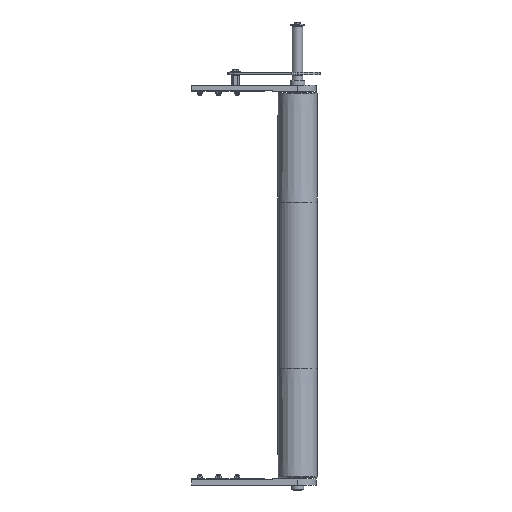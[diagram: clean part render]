
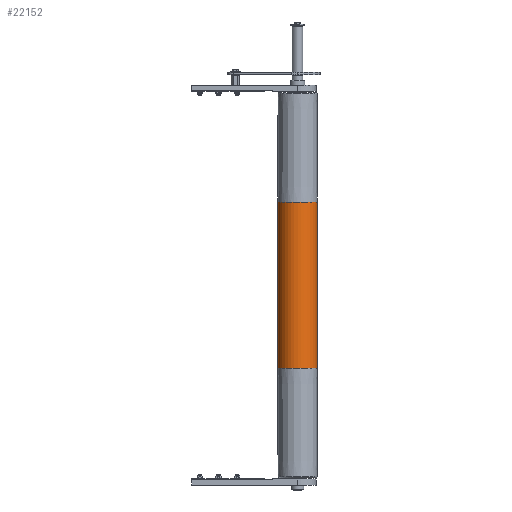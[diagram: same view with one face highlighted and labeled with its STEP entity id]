
A CAD part, front view. The second image highlights one B-rep face of the part: STEP entity #22152.
In plain terms, the highlighted cylindrical face has radius 47.5 mm (diameter 95 mm), a partial arc.
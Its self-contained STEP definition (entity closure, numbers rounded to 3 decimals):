
#149 = VERTEX_POINT ( 'NONE', #22177 ) ;
#1184 = AXIS2_PLACEMENT_3D ( 'NONE', #1985, #11234, #11062 ) ;
#1836 = DIRECTION ( 'NONE',  ( 1., 0., 0. ) ) ;
#1985 = CARTESIAN_POINT ( 'NONE',  ( 460., 0., 0. ) ) ;
#2827 = CYLINDRICAL_SURFACE ( 'NONE', #1184, 47.5 ) ;
#2961 = CIRCLE ( 'NONE', #8231, 47.5 ) ;
#3421 = EDGE_LOOP ( 'NONE', ( #21378, #9424, #11294, #21278 ) ) ;
#3925 = VECTOR ( 'NONE', #21246, 1000. ) ;
#5131 = DIRECTION ( 'NONE',  ( 0., 0., -1. ) ) ;
#5206 = CARTESIAN_POINT ( 'NONE',  ( -200., 0., -47.5 ) ) ;
#5221 = EDGE_CURVE ( 'NONE', #10208, #23368, #2961, .T. ) ;
#5440 = DIRECTION ( 'NONE',  ( 0., 0., -1. ) ) ;
#5811 = CIRCLE ( 'NONE', #19228, 47.5 ) ;
#6637 = CARTESIAN_POINT ( 'NONE',  ( 460., 0., -47.5 ) ) ;
#7469 = CARTESIAN_POINT ( 'NONE',  ( -200., 0., 0. ) ) ;
#7845 = EDGE_CURVE ( 'NONE', #9014, #149, #5811, .T. ) ;
#8231 = AXIS2_PLACEMENT_3D ( 'NONE', #7469, #1836, #5440 ) ;
#9014 = VERTEX_POINT ( 'NONE', #22286 ) ;
#9424 = ORIENTED_EDGE ( 'NONE', *, *, #7845, .F. ) ;
#10208 = VERTEX_POINT ( 'NONE', #21911 ) ;
#11062 = DIRECTION ( 'NONE',  ( 0., 0., 1. ) ) ;
#11234 = DIRECTION ( 'NONE',  ( -1., 0., 0. ) ) ;
#11294 = ORIENTED_EDGE ( 'NONE', *, *, #18259, .T. ) ;
#12027 = VECTOR ( 'NONE', #21431, 1000. ) ;
#12744 = EDGE_CURVE ( 'NONE', #149, #23368, #13476, .T. ) ;
#13476 = LINE ( 'NONE', #6637, #12027 ) ;
#13830 = LINE ( 'NONE', #14871, #3925 ) ;
#14871 = CARTESIAN_POINT ( 'NONE',  ( 460., 0., 47.5 ) ) ;
#18066 = FACE_OUTER_BOUND ( 'NONE', #3421, .T. ) ;
#18259 = EDGE_CURVE ( 'NONE', #9014, #10208, #13830, .T. ) ;
#19228 = AXIS2_PLACEMENT_3D ( 'NONE', #23571, #23745, #5131 ) ;
#21246 = DIRECTION ( 'NONE',  ( -1., 0., 0. ) ) ;
#21278 = ORIENTED_EDGE ( 'NONE', *, *, #5221, .T. ) ;
#21378 = ORIENTED_EDGE ( 'NONE', *, *, #12744, .F. ) ;
#21431 = DIRECTION ( 'NONE',  ( -1., 0., 0. ) ) ;
#21911 = CARTESIAN_POINT ( 'NONE',  ( -200., 0., 47.5 ) ) ;
#22152 = ADVANCED_FACE ( 'NONE', ( #18066 ), #2827, .T. ) ;
#22177 = CARTESIAN_POINT ( 'NONE',  ( 200., 0., -47.5 ) ) ;
#22286 = CARTESIAN_POINT ( 'NONE',  ( 200., 0., 47.5 ) ) ;
#23368 = VERTEX_POINT ( 'NONE', #5206 ) ;
#23571 = CARTESIAN_POINT ( 'NONE',  ( 200., 0., 0. ) ) ;
#23745 = DIRECTION ( 'NONE',  ( 1., 0., 0. ) ) ;
